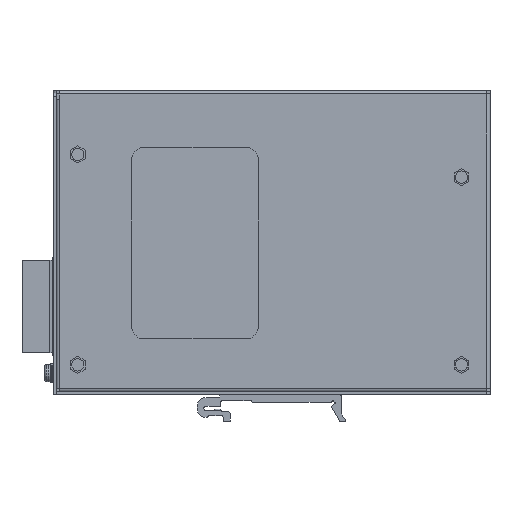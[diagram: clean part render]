
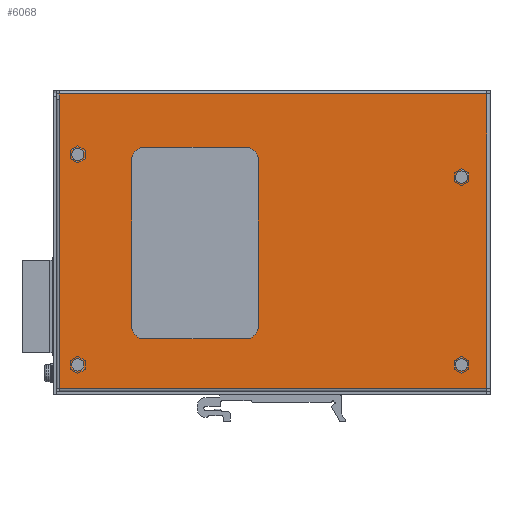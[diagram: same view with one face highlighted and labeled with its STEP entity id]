
A CAD part, front view. The second image highlights one B-rep face of the part: STEP entity #6068.
In plain terms, the highlighted planar face has unit normal (0, -1, 0).
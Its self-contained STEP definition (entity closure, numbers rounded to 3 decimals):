
#1=DIRECTION('',(0.,0.,1.));
#2=VECTOR('',#1,1.8);
#3=CARTESIAN_POINT('',(-69.5,0.,46.1));
#4=LINE('',#3,#2);
#5=CARTESIAN_POINT('',(61.27,0.,-40.2));
#6=DIRECTION('',(0.,-1.,0.));
#7=DIRECTION('',(1.,0.,0.));
#8=AXIS2_PLACEMENT_3D('',#5,#6,#7);
#10=CARTESIAN_POINT('',(61.27,0.,-40.2));
#11=DIRECTION('',(0.,-1.,0.));
#12=DIRECTION('',(-1.,0.,0.));
#13=AXIS2_PLACEMENT_3D('',#10,#11,#12);
#15=CARTESIAN_POINT('',(61.27,0.,20.84));
#16=DIRECTION('',(0.,-1.,0.));
#17=DIRECTION('',(1.,0.,0.));
#18=AXIS2_PLACEMENT_3D('',#15,#16,#17);
#20=CARTESIAN_POINT('',(61.27,0.,20.84));
#21=DIRECTION('',(0.,-1.,0.));
#22=DIRECTION('',(-1.,0.,0.));
#23=AXIS2_PLACEMENT_3D('',#20,#21,#22);
#25=CARTESIAN_POINT('',(-63.5,0.,-40.2));
#26=DIRECTION('',(0.,-1.,0.));
#27=DIRECTION('',(1.,0.,0.));
#28=AXIS2_PLACEMENT_3D('',#25,#26,#27);
#30=CARTESIAN_POINT('',(-63.5,0.,-40.2));
#31=DIRECTION('',(0.,-1.,0.));
#32=DIRECTION('',(-1.,0.,0.));
#33=AXIS2_PLACEMENT_3D('',#30,#31,#32);
#35=CARTESIAN_POINT('',(-63.5,0.,28.22));
#36=DIRECTION('',(0.,-1.,0.));
#37=DIRECTION('',(1.,0.,0.));
#38=AXIS2_PLACEMENT_3D('',#35,#36,#37);
#40=CARTESIAN_POINT('',(-63.5,0.,28.22));
#41=DIRECTION('',(0.,-1.,0.));
#42=DIRECTION('',(-1.,0.,0.));
#43=AXIS2_PLACEMENT_3D('',#40,#41,#42);
#45=CARTESIAN_POINT('',(-42.,0.,26.5));
#46=DIRECTION('',(0.,-1.,0.));
#47=DIRECTION('',(0.,0.,1.));
#48=AXIS2_PLACEMENT_3D('',#45,#46,#47);
#50=CARTESIAN_POINT('',(-42.,0.,-27.7));
#51=DIRECTION('',(0.,-1.,0.));
#52=DIRECTION('',(-1.,0.,0.));
#53=AXIS2_PLACEMENT_3D('',#50,#51,#52);
#55=CARTESIAN_POINT('',(-8.8,0.,-27.7));
#56=DIRECTION('',(0.,-1.,0.));
#57=DIRECTION('',(0.,0.,-1.));
#58=AXIS2_PLACEMENT_3D('',#55,#56,#57);
#60=CARTESIAN_POINT('',(-8.8,0.,26.5));
#61=DIRECTION('',(0.,-1.,0.));
#62=DIRECTION('',(1.,0.,0.));
#63=AXIS2_PLACEMENT_3D('',#60,#61,#62);
#86=DIRECTION('',(0.,0.,-1.));
#87=VECTOR('',#86,94.);
#88=CARTESIAN_POINT('',(-69.5,0.,46.1));
#89=LINE('',#88,#87);
#206=DIRECTION('',(1.,0.,0.));
#207=VECTOR('',#206,139.);
#208=CARTESIAN_POINT('',(-69.5,0.,-47.9));
#209=LINE('',#208,#207);
#2454=DIRECTION('',(0.,0.,1.));
#2455=VECTOR('',#2454,95.8);
#2456=CARTESIAN_POINT('',(69.5,0.,-47.9));
#2457=LINE('',#2456,#2455);
#2573=DIRECTION('',(-1.,0.,0.));
#2574=VECTOR('',#2573,139.);
#2575=CARTESIAN_POINT('',(69.5,0.,47.9));
#2576=LINE('',#2575,#2574);
#4591=DIRECTION('',(1.,0.,0.));
#4592=VECTOR('',#4591,33.2);
#4593=CARTESIAN_POINT('',(-42.,0.,30.5));
#4594=LINE('',#4593,#4592);
#4603=DIRECTION('',(0.,0.,-1.));
#4604=VECTOR('',#4603,54.2);
#4605=CARTESIAN_POINT('',(-4.8,0.,26.5));
#4606=LINE('',#4605,#4604);
#4615=DIRECTION('',(-1.,0.,0.));
#4616=VECTOR('',#4615,33.2);
#4617=CARTESIAN_POINT('',(-8.8,0.,-31.7));
#4618=LINE('',#4617,#4616);
#4627=DIRECTION('',(0.,0.,1.));
#4628=VECTOR('',#4627,54.2);
#4629=CARTESIAN_POINT('',(-46.,0.,-27.7));
#4630=LINE('',#4629,#4628);
#4675=CARTESIAN_POINT('',(-69.5,0.,46.1));
#4676=CARTESIAN_POINT('',(-69.5,0.,47.9));
#4677=VERTEX_POINT('',#4675);
#4678=VERTEX_POINT('',#4676);
#4679=CARTESIAN_POINT('',(69.5,0.,47.9));
#4680=VERTEX_POINT('',#4679);
#4681=CARTESIAN_POINT('',(69.5,0.,-47.9));
#4682=VERTEX_POINT('',#4681);
#4683=CARTESIAN_POINT('',(-69.5,0.,-47.9));
#4684=VERTEX_POINT('',#4683);
#4685=CARTESIAN_POINT('',(63.27,0.,-40.2));
#4686=CARTESIAN_POINT('',(59.27,0.,-40.2));
#4687=VERTEX_POINT('',#4685);
#4688=VERTEX_POINT('',#4686);
#4689=CARTESIAN_POINT('',(63.27,0.,20.84));
#4690=CARTESIAN_POINT('',(59.27,0.,20.84));
#4691=VERTEX_POINT('',#4689);
#4692=VERTEX_POINT('',#4690);
#4693=CARTESIAN_POINT('',(-61.5,0.,-40.2));
#4694=CARTESIAN_POINT('',(-65.5,0.,-40.2));
#4695=VERTEX_POINT('',#4693);
#4696=VERTEX_POINT('',#4694);
#4697=CARTESIAN_POINT('',(-61.5,0.,28.22));
#4698=CARTESIAN_POINT('',(-65.5,0.,28.22));
#4699=VERTEX_POINT('',#4697);
#4700=VERTEX_POINT('',#4698);
#4701=CARTESIAN_POINT('',(-42.,0.,30.5));
#4702=CARTESIAN_POINT('',(-8.8,0.,30.5));
#4703=VERTEX_POINT('',#4701);
#4704=VERTEX_POINT('',#4702);
#4705=CARTESIAN_POINT('',(-46.,0.,26.5));
#4706=VERTEX_POINT('',#4705);
#4707=CARTESIAN_POINT('',(-46.,0.,-27.7));
#4708=VERTEX_POINT('',#4707);
#4709=CARTESIAN_POINT('',(-42.,0.,-31.7));
#4710=VERTEX_POINT('',#4709);
#4711=CARTESIAN_POINT('',(-8.8,0.,-31.7));
#4712=VERTEX_POINT('',#4711);
#4713=CARTESIAN_POINT('',(-4.8,0.,-27.7));
#4714=VERTEX_POINT('',#4713);
#4715=CARTESIAN_POINT('',(-4.8,0.,26.5));
#4716=VERTEX_POINT('',#4715);
#6009=CARTESIAN_POINT('',(0.,0.,0.));
#6010=DIRECTION('',(0.,1.,0.));
#6011=DIRECTION('',(1.,0.,0.));
#6012=AXIS2_PLACEMENT_3D('',#6009,#6010,#6011);
#6013=PLANE('',#6012);
#6015=ORIENTED_EDGE('',*,*,#6014,.T.);
#6017=ORIENTED_EDGE('',*,*,#6016,.F.);
#6019=ORIENTED_EDGE('',*,*,#6018,.F.);
#6021=ORIENTED_EDGE('',*,*,#6020,.F.);
#6023=ORIENTED_EDGE('',*,*,#6022,.F.);
#6024=EDGE_LOOP('',(#6015,#6017,#6019,#6021,#6023));
#6025=FACE_OUTER_BOUND('',#6024,.F.);
#6027=ORIENTED_EDGE('',*,*,#6026,.T.);
#6029=ORIENTED_EDGE('',*,*,#6028,.T.);
#6030=EDGE_LOOP('',(#6027,#6029));
#6031=FACE_BOUND('',#6030,.F.);
#6033=ORIENTED_EDGE('',*,*,#6032,.T.);
#6035=ORIENTED_EDGE('',*,*,#6034,.T.);
#6036=EDGE_LOOP('',(#6033,#6035));
#6037=FACE_BOUND('',#6036,.F.);
#6039=ORIENTED_EDGE('',*,*,#6038,.T.);
#6041=ORIENTED_EDGE('',*,*,#6040,.T.);
#6042=EDGE_LOOP('',(#6039,#6041));
#6043=FACE_BOUND('',#6042,.F.);
#6045=ORIENTED_EDGE('',*,*,#6044,.T.);
#6047=ORIENTED_EDGE('',*,*,#6046,.T.);
#6048=EDGE_LOOP('',(#6045,#6047));
#6049=FACE_BOUND('',#6048,.F.);
#6051=ORIENTED_EDGE('',*,*,#6050,.F.);
#6053=ORIENTED_EDGE('',*,*,#6052,.T.);
#6055=ORIENTED_EDGE('',*,*,#6054,.F.);
#6057=ORIENTED_EDGE('',*,*,#6056,.T.);
#6059=ORIENTED_EDGE('',*,*,#6058,.F.);
#6061=ORIENTED_EDGE('',*,*,#6060,.T.);
#6063=ORIENTED_EDGE('',*,*,#6062,.F.);
#6065=ORIENTED_EDGE('',*,*,#6064,.T.);
#6066=EDGE_LOOP('',(#6051,#6053,#6055,#6057,#6059,#6061,#6063,#6065));
#6067=FACE_BOUND('',#6066,.F.);
#9=CIRCLE('',#8,2.);
#14=CIRCLE('',#13,2.);
#19=CIRCLE('',#18,2.);
#24=CIRCLE('',#23,2.);
#29=CIRCLE('',#28,2.);
#34=CIRCLE('',#33,2.);
#39=CIRCLE('',#38,2.);
#44=CIRCLE('',#43,2.);
#49=CIRCLE('',#48,4.);
#54=CIRCLE('',#53,4.);
#59=CIRCLE('',#58,4.);
#64=CIRCLE('',#63,4.);
#6014=EDGE_CURVE('',#4677,#4678,#4,.T.);
#6016=EDGE_CURVE('',#4680,#4678,#2576,.T.);
#6018=EDGE_CURVE('',#4682,#4680,#2457,.T.);
#6020=EDGE_CURVE('',#4684,#4682,#209,.T.);
#6022=EDGE_CURVE('',#4677,#4684,#89,.T.);
#6026=EDGE_CURVE('',#4687,#4688,#9,.T.);
#6028=EDGE_CURVE('',#4688,#4687,#14,.T.);
#6032=EDGE_CURVE('',#4691,#4692,#19,.T.);
#6034=EDGE_CURVE('',#4692,#4691,#24,.T.);
#6038=EDGE_CURVE('',#4695,#4696,#29,.T.);
#6040=EDGE_CURVE('',#4696,#4695,#34,.T.);
#6044=EDGE_CURVE('',#4699,#4700,#39,.T.);
#6046=EDGE_CURVE('',#4700,#4699,#44,.T.);
#6050=EDGE_CURVE('',#4703,#4704,#4594,.T.);
#6052=EDGE_CURVE('',#4703,#4706,#49,.T.);
#6054=EDGE_CURVE('',#4708,#4706,#4630,.T.);
#6056=EDGE_CURVE('',#4708,#4710,#54,.T.);
#6058=EDGE_CURVE('',#4712,#4710,#4618,.T.);
#6060=EDGE_CURVE('',#4712,#4714,#59,.T.);
#6062=EDGE_CURVE('',#4716,#4714,#4606,.T.);
#6064=EDGE_CURVE('',#4716,#4704,#64,.T.);
#6068=ADVANCED_FACE('',(#6025,#6031,#6037,#6043,#6049,#6067),#6013,.F.);
